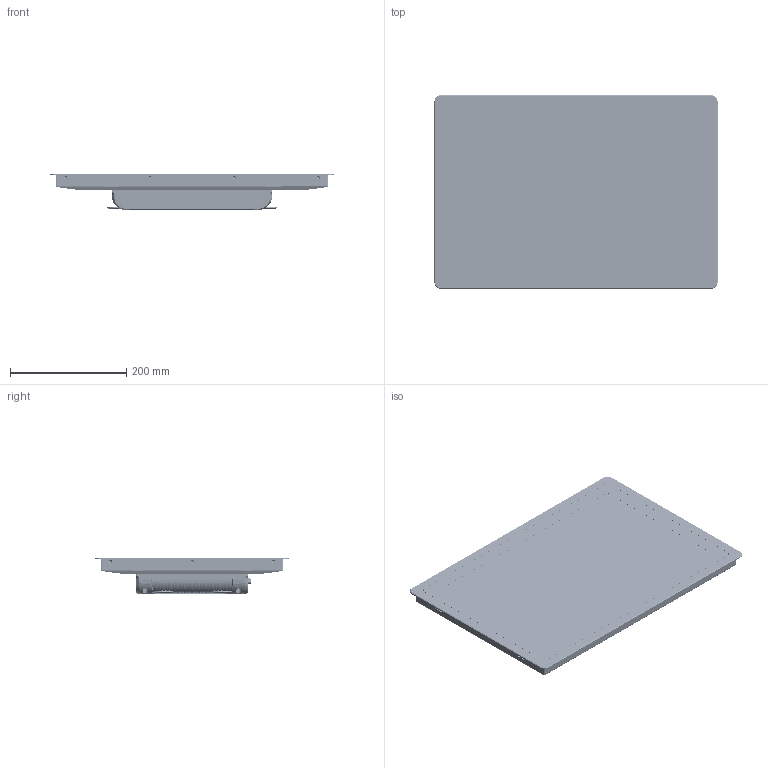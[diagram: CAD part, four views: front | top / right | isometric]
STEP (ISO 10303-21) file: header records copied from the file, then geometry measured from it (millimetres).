
FILE_DESCRIPTION((''),'2;1');
FILE_NAME('0-19INCH_K_2_GENERATIONS_ASM','2020-07-08T',('Administrator'),(''),'CREO PARAMETRIC BY PTC INC, 2015290','CREO PARAMETRIC BY PTC INC, 2015290','');
FILE_SCHEMA(('CONFIG_CONTROL_DESIGN'));
Products named in the file (1): 0-19INCH_K_2_GENERATIONS_ASM
Bounding box: 486 x 332 x 63.21 mm (x, y, z)
Surface area: 1375798.1 mm2 (no closed solid volume)
Topology: 0 solids, 0 shells, 4025 faces, 21059 edges, 20819 vertices
Faces by surface type: bspline 3815, torus 204, sphere 6
Entity records: 337413 total; most frequent: CARTESIAN_POINT 150456, DIRECTION 29303, TRIMMED_CURVE 25805, VECTOR 22727, LINE 22727, DEFINITIONAL_REPRESENTATION 20646, PCURVE 20646, COMPOSITE_CURVE_SEGMENT 20646
